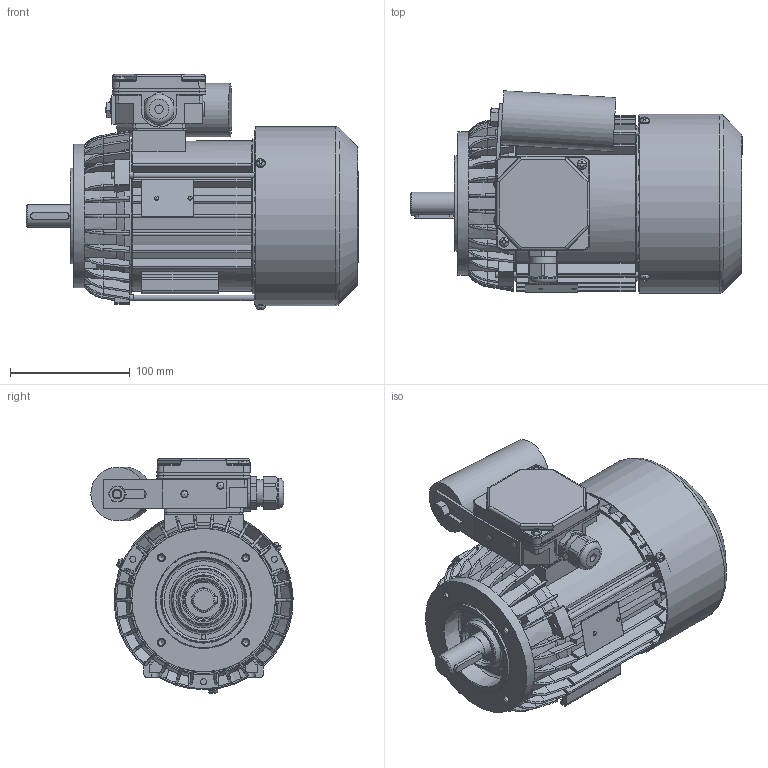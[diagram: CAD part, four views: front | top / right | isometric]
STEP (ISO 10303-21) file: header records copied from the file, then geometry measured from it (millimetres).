
FILE_DESCRIPTION( ( 'Unknown' ), '1' );
FILE_NAME( 'G:/Poczta Tk-1/STP/w.m.80/SEh80/SEKh80-.B2.stp', 'Unknown', ( 'K. Szlosek' ), ( 'BESEL S.A.' ), 'PSStep 17.0.49', 'Unknown', ' ' );
FILE_SCHEMA( ( 'AUTOMOTIVE_DESIGN { 1 0 10303 214 1 1 1 1 }' ) );
Length unit declared in the file: millimetre
Products named in the file (33): Assem1; K1-1257 Kadłub S(E,M)h80-A i B; Kondensator zb 25-31,5uF Comar; K3-2964 Osłona przewietrznika Sh80,90; K2-0860 Pokrywka skrzynki zaciskowej; K4-2320 Uszczelka nr 1 Sh71,80; K3-4616 wał standard Sh80-B; K3-6857 Tarcza łożyskowa P S(E,M)h80-B,D; Wkręt samogwintujący M4x8; Wpust A6x6x32; K2-1131 Podstawa skrzynki zaciskowej jednofazowa; K4-2820 Uszczelka nr 2 Sh71,80; Wkręt samogwintujący M4x16; K4-0898 Tulejka uszczelniająca; nakrętka M8; Nit 4x12 po skróceniu; Nitokołek A 2x6; K3-4025 Przewietrznik Sg,h80; K4-2999 Uchwyt kondensatora; Dławnica M20x1,5; Tabliczka znamionowa 32x44; Łożysko 6204; Śruba ściągająca E_M5x130; K1-1261 Tarcza kołnierzowa B14_2 w.m. 80
Assembly tree (49 placements, depth 2):
  Assem1
    K1-1257 Kadłub S(E,M)h80-A i B
    Kondensator zb 25-31,5uF Comar
    K3-2964 Osłona przewietrznika Sh80,90
    K2-0860 Pokrywka skrzynki zaciskowej
    K4-2320 Uszczelka nr 1 Sh71,80
    K3-4616 wał standard Sh80-B
    K3-6857 Tarcza łożyskowa P S(E,M)h80-B,D
    Wkręt samogwintujący M4x8  x3
    Wpust A6x6x32
    K2-1131 Podstawa skrzynki zaciskowej jednofazowa
    K4-2820 Uszczelka nr 2 Sh71,80
    Wkręt samogwintujący M4x16  x2
    K4-0898 Tulejka uszczelniająca
    nakrętka M8
    Nit 4x12 po skróceniu  x2
    Nitokołek A 2x6  x2
    K3-4025 Przewietrznik Sg,h80
    K4-2999 Uchwyt kondensatora
    Dławnica M20x1,5
    Tabliczka znamionowa 32x44
    Łożysko 6204  x2
    Łożysko 6204  x2
    Łożysko 6204  x2
    Łożysko 6204  x2
    Łożysko 6204  x2
    Łożysko 6204  x2
    Łożysko 6204  x2
    Łożysko 6204  x2
    Łożysko 6204  x2
    Łożysko 6204  x2
    Śruba ściągająca E_M5x130  x3
    K1-1261 Tarcza kołnierzowa B14_2 w.m. 80
Bounding box: 277.8 x 169.24 x 196.68 mm (x, y, z)
Volume: 942689.7 mm3; surface area: 558776.1 mm2
Topology: 49 solids, 65 shells, 2745 faces, 7685 edges, 4958 vertices
Faces by surface type: plane 1297, cylinder 802, bspline 249, torus 189, cone 170, sphere 38
Full cylindrical faces by diameter (mm): 2 x2, 2.4 x2, 3 x1, 3.7 x11, 4 x9, 4.2 x3, 4.3 x2, 4.5 x3, 4.6 x3, 4.8 x4, 5 x11, 5.5 x3, 6 x2, 6.5 x1, 6.647 x1, 7 x1, 8 x10, 10 x2, 18.376 x1, 18.38 x1, 19 x1, 19.3 x1, 19.5 x1, 19.9 x1, 20 x3, 20.3 x2, 20.4 x4, 22.3 x1, 25 x1, 25.5 x1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
Entity records: 138823 total; most frequent: CARTESIAN_POINT 53904, ORIENTED_EDGE 13696, DIRECTION 12614, EDGE_CURVE 6848, AXIS2_PLACEMENT_3D 4649, VERTEX_POINT 4584, LINE 3316, VECTOR 3316
